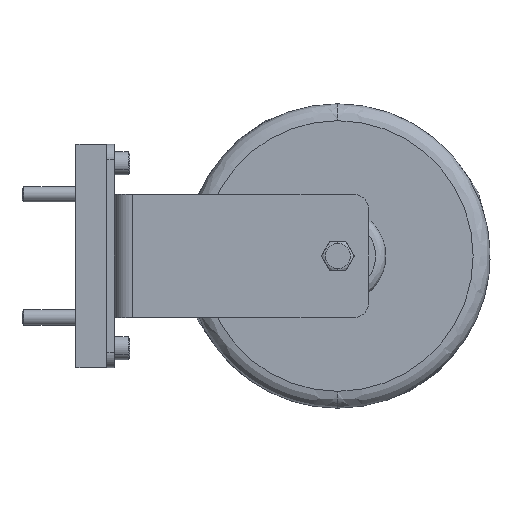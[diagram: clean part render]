
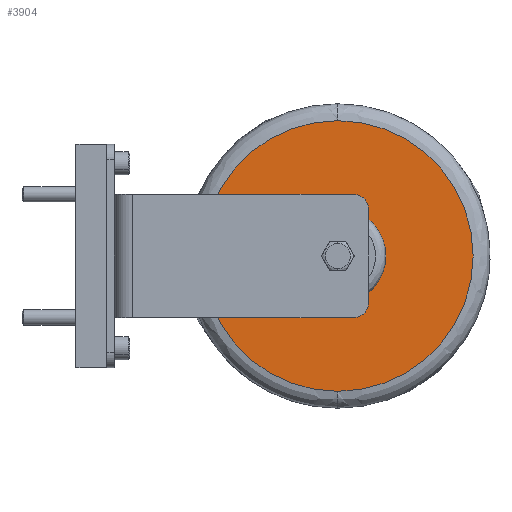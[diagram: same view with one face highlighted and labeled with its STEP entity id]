
A CAD part, left-side view. The second image highlights one B-rep face of the part: STEP entity #3904.
In plain terms, the highlighted planar face has unit normal (-1, 0, 0).
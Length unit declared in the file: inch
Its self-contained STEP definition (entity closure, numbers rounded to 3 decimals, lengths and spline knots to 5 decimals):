
#318 = FACE_OUTER_BOUND ( 'NONE', #2097, .T. ) ;
#923 = CIRCLE ( 'NONE', #2764, 2.19594 ) ;
#986 = AXIS2_PLACEMENT_3D ( 'NONE', #4143, #9210, #4862 ) ;
#1950 = VERTEX_POINT ( 'NONE', #9404 ) ;
#2097 = EDGE_LOOP ( 'NONE', ( #6368, #8622 ) ) ;
#2301 = EDGE_CURVE ( 'NONE', #1950, #7431, #923, .T. ) ;
#2309 = CARTESIAN_POINT ( 'NONE',  ( -0.6185, -3.75, -0.77869 ) ) ;
#2764 = AXIS2_PLACEMENT_3D ( 'NONE', #7468, #3124, #8204 ) ;
#3006 = ORIENTED_EDGE ( 'NONE', *, *, #3229, .T. ) ;
#3026 = EDGE_CURVE ( 'NONE', #7431, #1950, #3287, .T. ) ;
#3124 = DIRECTION ( 'NONE',  ( 1., 0., 0. ) ) ;
#3229 = EDGE_CURVE ( 'NONE', #3940, #3451, #7458, .T. ) ;
#3287 = CIRCLE ( 'NONE', #4509, 2.19594 ) ;
#3438 = CARTESIAN_POINT ( 'NONE',  ( -0.6185, -3.75, -2.19594 ) ) ;
#3451 = VERTEX_POINT ( 'NONE', #2309 ) ;
#3468 = DIRECTION ( 'NONE',  ( -1., 0., 0. ) ) ;
#3506 = CARTESIAN_POINT ( 'NONE',  ( -0.6185, -3.75, 0. ) ) ;
#3855 = CARTESIAN_POINT ( 'NONE',  ( -0.6185, -3.75, 0. ) ) ;
#3904 = ADVANCED_FACE ( 'NONE', ( #7929, #318 ), #9248, .T. ) ;
#3940 = VERTEX_POINT ( 'NONE', #4920 ) ;
#3950 = ORIENTED_EDGE ( 'NONE', *, *, #8739, .T. ) ;
#4143 = CARTESIAN_POINT ( 'NONE',  ( -0.6185, -3.75, 0. ) ) ;
#4242 = DIRECTION ( 'NONE',  ( 0., 1., 0. ) ) ;
#4509 = AXIS2_PLACEMENT_3D ( 'NONE', #3855, #8919, #4580 ) ;
#4580 = DIRECTION ( 'NONE',  ( 0., 1., 0. ) ) ;
#4642 = AXIS2_PLACEMENT_3D ( 'NONE', #3506, #8578, #4242 ) ;
#4862 = DIRECTION ( 'NONE',  ( 0., 1., 0. ) ) ;
#4920 = CARTESIAN_POINT ( 'NONE',  ( -0.6185, -3.75, 0.77869 ) ) ;
#5846 = EDGE_LOOP ( 'NONE', ( #3950, #3006 ) ) ;
#6368 = ORIENTED_EDGE ( 'NONE', *, *, #3026, .F. ) ;
#7195 = CIRCLE ( 'NONE', #986, 0.77869 ) ;
#7431 = VERTEX_POINT ( 'NONE', #3438 ) ;
#7458 = CIRCLE ( 'NONE', #4642, 0.77869 ) ;
#7468 = CARTESIAN_POINT ( 'NONE',  ( -0.6185, -3.75, 0. ) ) ;
#7809 = CARTESIAN_POINT ( 'NONE',  ( -0.6185, -2.26268, 0. ) ) ;
#7929 = FACE_BOUND ( 'NONE', #5846, .T. ) ;
#7985 = AXIS2_PLACEMENT_3D ( 'NONE', #7809, #3468, #8546 ) ;
#8204 = DIRECTION ( 'NONE',  ( 0., 1., 0. ) ) ;
#8546 = DIRECTION ( 'NONE',  ( 0., 0., 1. ) ) ;
#8578 = DIRECTION ( 'NONE',  ( 1., 0., 0. ) ) ;
#8622 = ORIENTED_EDGE ( 'NONE', *, *, #2301, .F. ) ;
#8739 = EDGE_CURVE ( 'NONE', #3451, #3940, #7195, .T. ) ;
#8919 = DIRECTION ( 'NONE',  ( 1., 0., 0. ) ) ;
#9210 = DIRECTION ( 'NONE',  ( 1., 0., 0. ) ) ;
#9248 = PLANE ( 'NONE',  #7985 ) ;
#9404 = CARTESIAN_POINT ( 'NONE',  ( -0.6185, -3.75, 2.19594 ) ) ;
